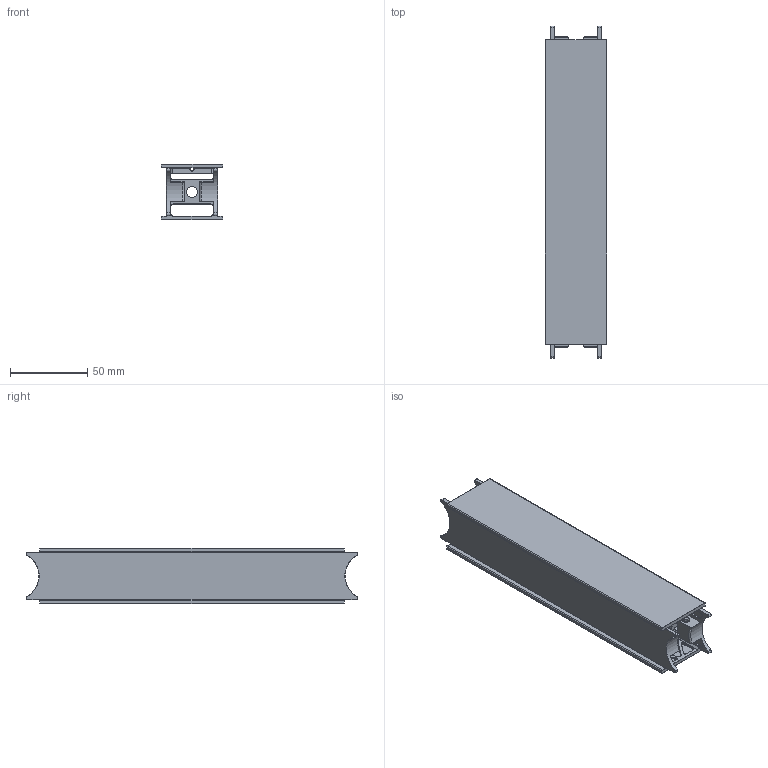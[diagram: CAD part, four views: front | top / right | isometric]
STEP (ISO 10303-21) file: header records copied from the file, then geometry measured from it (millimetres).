
FILE_DESCRIPTION (( 'STEP AP214' ), '1' );
FILE_NAME ('ACDISTBIXORXXXX.STEP', '2023-08-28T15:09:17', ( '' ), ( '' ), 'SwSTEP 2.0', 'SolidWorks 2023', '' );
FILE_SCHEMA (( 'AUTOMOTIVE_DESIGN' ));
Products named in the file (3): WSCP2E0014-1400-03; ACDISTBIXORXXXX; WSCP2E0018-1400-01
Assembly tree (2 placements, depth 2):
  ACDISTBIXORXXXX
    WSCP2E0014-1400-03
    WSCP2E0018-1400-01
Bounding box: 40 x 214.71 x 36.1 mm (x, y, z)
Volume: 65613.5 mm3; surface area: 67875.2 mm2
Topology: 2 solids, 2 shells, 2522 faces, 5775 edges, 3273 vertices
Faces by surface type: cylinder 1134, torus 888, plane 416, bspline 52, sphere 32
Entity records: 71896 total; most frequent: DIRECTION 14034, CARTESIAN_POINT 13379, ORIENTED_EDGE 11422, AXIS2_PLACEMENT_3D 5952, EDGE_CURVE 5711, CIRCLE 3477, VERTEX_POINT 3273, EDGE_LOOP 2626
